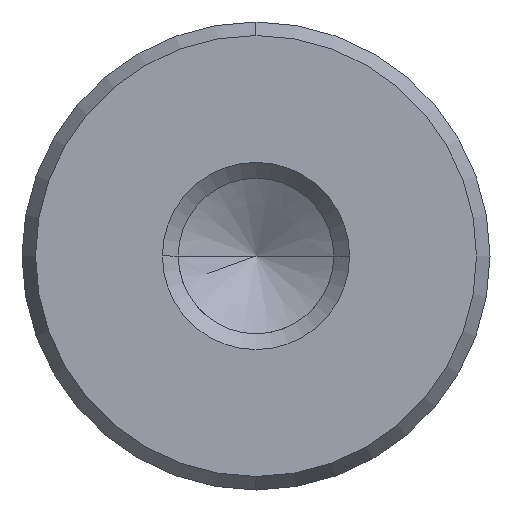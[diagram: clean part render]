
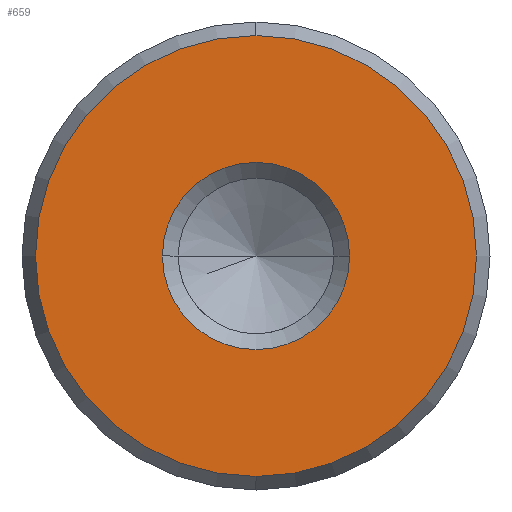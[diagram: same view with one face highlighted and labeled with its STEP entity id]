
A CAD part, left-side view. The second image highlights one B-rep face of the part: STEP entity #659.
In plain terms, the highlighted planar face has unit normal (-1, 0, 0).
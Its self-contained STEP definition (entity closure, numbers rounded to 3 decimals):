
#573=CARTESIAN_POINT('Vertex',(0.,0.,-9.423)) ;
#576=CARTESIAN_POINT('Axis2P3D Location',(0.,0.,0.)) ;
#580=CARTESIAN_POINT('Vertex',(0.,9.423,0.)) ;
#583=CARTESIAN_POINT('Axis2P3D Location',(0.,0.,0.)) ;
#587=CARTESIAN_POINT('Vertex',(0.,0.,9.423)) ;
#609=CARTESIAN_POINT('Axis2P3D Location',(0.,0.,0.)) ;
#613=CARTESIAN_POINT('Vertex',(0.,-9.423,0.)) ;
#616=CARTESIAN_POINT('Axis2P3D Location',(0.,0.,0.)) ;
#630=CARTESIAN_POINT('Axis2P3D Location',(0.,0.,0.)) ;
#641=CARTESIAN_POINT('Axis2P3D Location',(0.,0.,0.)) ;
#645=CARTESIAN_POINT('Vertex',(0.,4.,0.)) ;
#647=CARTESIAN_POINT('Vertex',(0.,-4.,0.)) ;
#650=CARTESIAN_POINT('Axis2P3D Location',(0.,0.,0.)) ;
#577=DIRECTION('Axis2P3D Direction',(1.,0.,-0.)) ;
#584=DIRECTION('Axis2P3D Direction',(1.,0.,-0.)) ;
#610=DIRECTION('Axis2P3D Direction',(1.,0.,-0.)) ;
#617=DIRECTION('Axis2P3D Direction',(1.,0.,-0.)) ;
#631=DIRECTION('Axis2P3D Direction',(1.,0.,-0.)) ;
#632=DIRECTION('Axis2P3D XDirection',(-0.,0.,-1.)) ;
#642=DIRECTION('Axis2P3D Direction',(1.,0.,-0.)) ;
#651=DIRECTION('Axis2P3D Direction',(1.,0.,-0.)) ;
#578=AXIS2_PLACEMENT_3D('Circle Axis2P3D',#576,#577,$) ;
#585=AXIS2_PLACEMENT_3D('Circle Axis2P3D',#583,#584,$) ;
#611=AXIS2_PLACEMENT_3D('Circle Axis2P3D',#609,#610,$) ;
#618=AXIS2_PLACEMENT_3D('Circle Axis2P3D',#616,#617,$) ;
#633=AXIS2_PLACEMENT_3D('Plane Axis2P3D',#630,#631,#632) ;
#643=AXIS2_PLACEMENT_3D('Circle Axis2P3D',#641,#642,$) ;
#652=AXIS2_PLACEMENT_3D('Circle Axis2P3D',#650,#651,$) ;
#636=ORIENTED_EDGE('',*,*,#582,.F.) ;
#637=ORIENTED_EDGE('',*,*,#620,.F.) ;
#638=ORIENTED_EDGE('',*,*,#615,.F.) ;
#639=ORIENTED_EDGE('',*,*,#589,.F.) ;
#656=ORIENTED_EDGE('',*,*,#649,.T.) ;
#657=ORIENTED_EDGE('',*,*,#654,.T.) ;
#658=FACE_BOUND('',#655,.T.) ;
#659=ADVANCED_FACE('720-20x100',(#640,#658),#634,.F.) ;
#579=CIRCLE('generated circle',#578,9.423) ;
#586=CIRCLE('generated circle',#585,9.423) ;
#612=CIRCLE('generated circle',#611,9.423) ;
#619=CIRCLE('generated circle',#618,9.423) ;
#644=CIRCLE('generated circle',#643,4.) ;
#653=CIRCLE('generated circle',#652,4.) ;
#582=EDGE_CURVE('',#574,#581,#579,.T.) ;
#589=EDGE_CURVE('',#581,#588,#586,.T.) ;
#615=EDGE_CURVE('',#588,#614,#612,.T.) ;
#620=EDGE_CURVE('',#614,#574,#619,.T.) ;
#649=EDGE_CURVE('',#646,#648,#644,.T.) ;
#654=EDGE_CURVE('',#648,#646,#653,.T.) ;
#635=EDGE_LOOP('',(#636,#637,#638,#639)) ;
#655=EDGE_LOOP('',(#656,#657)) ;
#640=FACE_OUTER_BOUND('',#635,.T.) ;
#634=PLANE('Plane',#633) ;
#574=VERTEX_POINT('',#573) ;
#581=VERTEX_POINT('',#580) ;
#588=VERTEX_POINT('',#587) ;
#614=VERTEX_POINT('',#613) ;
#646=VERTEX_POINT('',#645) ;
#648=VERTEX_POINT('',#647) ;
